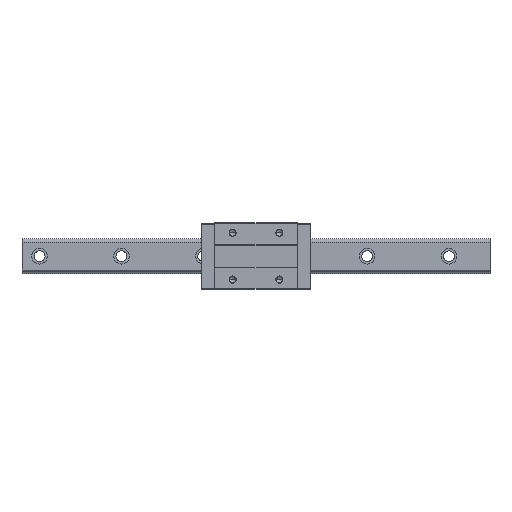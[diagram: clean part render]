
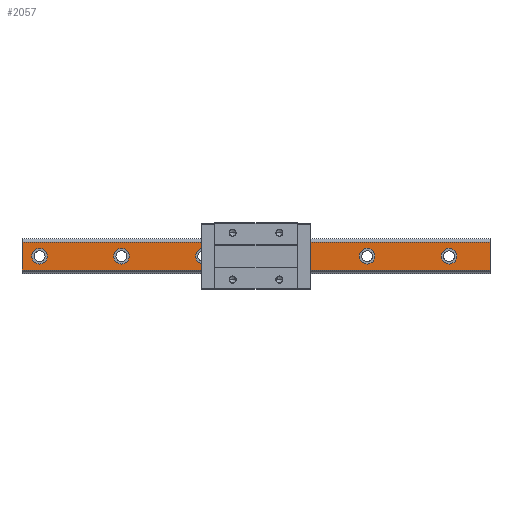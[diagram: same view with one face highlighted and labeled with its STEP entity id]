
A CAD part, top view. The second image highlights one B-rep face of the part: STEP entity #2057.
In plain terms, the highlighted planar face has unit normal (0, 0, 1).
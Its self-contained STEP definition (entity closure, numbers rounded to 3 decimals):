
#25 = ORIENTED_EDGE ( 'NONE', *, *, #1064, .F. ) ;
#48 = DIRECTION ( 'NONE',  ( 1., 0., 0. ) ) ;
#52 = DIRECTION ( 'NONE',  ( 0., 0., 1. ) ) ;
#90 = EDGE_CURVE ( 'NONE', #3299, #2442, #5118, .T. ) ;
#153 = EDGE_CURVE ( 'NONE', #2442, #2676, #3774, .T. ) ;
#180 = DIRECTION ( 'NONE',  ( 1., 0., 0. ) ) ;
#242 = AXIS2_PLACEMENT_3D ( 'NONE', #5193, #4300, #5134 ) ;
#294 = CARTESIAN_POINT ( 'NONE',  ( 247.5, 0., 32. ) ) ;
#303 = CIRCLE ( 'NONE', #4556, 10. ) ;
#329 = DIRECTION ( 'NONE',  ( 0., 0., 1. ) ) ;
#374 = FACE_BOUND ( 'NONE', #3960, .T. ) ;
#390 = AXIS2_PLACEMENT_3D ( 'NONE', #4216, #774, #800 ) ;
#400 = EDGE_CURVE ( 'NONE', #4006, #4148, #3013, .T. ) ;
#443 = EDGE_LOOP ( 'NONE', ( #5493, #1822 ) ) ;
#477 = CIRCLE ( 'NONE', #832, 10. ) ;
#497 = VERTEX_POINT ( 'NONE', #3310 ) ;
#568 = DIRECTION ( 'NONE',  ( 1., 0., 0. ) ) ;
#585 = LINE ( 'NONE', #1404, #4027 ) ;
#612 = DIRECTION ( 'NONE',  ( -1., 0., 0. ) ) ;
#620 = CARTESIAN_POINT ( 'NONE',  ( -277.5, 0., 32. ) ) ;
#635 = CARTESIAN_POINT ( 'NONE',  ( -57.5, 0., 32. ) ) ;
#664 = FACE_BOUND ( 'NONE', #868, .T. ) ;
#705 = ORIENTED_EDGE ( 'NONE', *, *, #5480, .F. ) ;
#716 = EDGE_CURVE ( 'NONE', #3423, #2676, #585, .T. ) ;
#720 = AXIS2_PLACEMENT_3D ( 'NONE', #2913, #3312, #5426 ) ;
#749 = EDGE_CURVE ( 'NONE', #1912, #958, #303, .T. ) ;
#774 = DIRECTION ( 'NONE',  ( 0., 0., 1. ) ) ;
#780 = DIRECTION ( 'NONE',  ( 1., 0., 0. ) ) ;
#795 = DIRECTION ( 'NONE',  ( 1., 0., 0. ) ) ;
#800 = DIRECTION ( 'NONE',  ( 1., 0., 0. ) ) ;
#812 = CARTESIAN_POINT ( 'NONE',  ( 300., 17.696, 32. ) ) ;
#827 = CARTESIAN_POINT ( 'NONE',  ( -267.5, 0., 32. ) ) ;
#832 = AXIS2_PLACEMENT_3D ( 'NONE', #5347, #2866, #1022 ) ;
#868 = EDGE_LOOP ( 'NONE', ( #1169, #5378 ) ) ;
#895 = ORIENTED_EDGE ( 'NONE', *, *, #1331, .F. ) ;
#938 = CIRCLE ( 'NONE', #4562, 10. ) ;
#941 = VERTEX_POINT ( 'NONE', #827 ) ;
#958 = VERTEX_POINT ( 'NONE', #5525 ) ;
#984 = DIRECTION ( 'NONE',  ( 1., 0., 0. ) ) ;
#1005 = EDGE_CURVE ( 'NONE', #2093, #2101, #5265, .T. ) ;
#1022 = DIRECTION ( 'NONE',  ( 1., 0., 0. ) ) ;
#1064 = EDGE_CURVE ( 'NONE', #4148, #4006, #938, .T. ) ;
#1102 = ORIENTED_EDGE ( 'NONE', *, *, #3631, .F. ) ;
#1144 = CARTESIAN_POINT ( 'NONE',  ( -277.5, 0., 32. ) ) ;
#1169 = ORIENTED_EDGE ( 'NONE', *, *, #3233, .F. ) ;
#1190 = DIRECTION ( 'NONE',  ( 0., 0., 1. ) ) ;
#1221 = LINE ( 'NONE', #3858, #1762 ) ;
#1286 = EDGE_CURVE ( 'NONE', #497, #4071, #4646, .T. ) ;
#1305 = AXIS2_PLACEMENT_3D ( 'NONE', #5045, #1190, #795 ) ;
#1331 = EDGE_CURVE ( 'NONE', #4075, #2822, #2313, .T. ) ;
#1377 = AXIS2_PLACEMENT_3D ( 'NONE', #1144, #4572, #2418 ) ;
#1404 = CARTESIAN_POINT ( 'NONE',  ( 300., -17.696, 32. ) ) ;
#1436 = CARTESIAN_POINT ( 'NONE',  ( -300., -17.696, 32. ) ) ;
#1451 = CIRCLE ( 'NONE', #720, 10. ) ;
#1543 = CARTESIAN_POINT ( 'NONE',  ( 300., -17.696, 32. ) ) ;
#1688 = CARTESIAN_POINT ( 'NONE',  ( 237.5, 0., 32. ) ) ;
#1762 = VECTOR ( 'NONE', #3372, 1000. ) ;
#1772 = EDGE_LOOP ( 'NONE', ( #5434, #25 ) ) ;
#1778 = CARTESIAN_POINT ( 'NONE',  ( -300., 17.696, 32. ) ) ;
#1822 = ORIENTED_EDGE ( 'NONE', *, *, #1286, .F. ) ;
#1827 = CARTESIAN_POINT ( 'NONE',  ( -67.5, 0., 32. ) ) ;
#1838 = AXIS2_PLACEMENT_3D ( 'NONE', #4892, #329, #780 ) ;
#1885 = DIRECTION ( 'NONE',  ( 0., 0., 1. ) ) ;
#1898 = EDGE_LOOP ( 'NONE', ( #895, #4068 ) ) ;
#1912 = VERTEX_POINT ( 'NONE', #635 ) ;
#1979 = CARTESIAN_POINT ( 'NONE',  ( 300., 17.696, 32. ) ) ;
#2013 = CARTESIAN_POINT ( 'NONE',  ( -182.5, 0., 32. ) ) ;
#2024 = DIRECTION ( 'NONE',  ( 0., 0., 1. ) ) ;
#2032 = CIRCLE ( 'NONE', #3029, 10. ) ;
#2057 = ADVANCED_FACE ( 'NONE', ( #3438, #664, #4291, #4730, #3684, #374, #2983 ), #5580, .F. ) ;
#2093 = VERTEX_POINT ( 'NONE', #5419 ) ;
#2101 = VERTEX_POINT ( 'NONE', #4967 ) ;
#2102 = DIRECTION ( 'NONE',  ( 0., 0., -1. ) ) ;
#2107 = CARTESIAN_POINT ( 'NONE',  ( 47.5, 0., 32. ) ) ;
#2253 = ORIENTED_EDGE ( 'NONE', *, *, #749, .F. ) ;
#2301 = CARTESIAN_POINT ( 'NONE',  ( 257.5, 0., 32. ) ) ;
#2313 = CIRCLE ( 'NONE', #1305, 10. ) ;
#2383 = CIRCLE ( 'NONE', #1377, 10. ) ;
#2418 = DIRECTION ( 'NONE',  ( 1., 0., 0. ) ) ;
#2442 = VERTEX_POINT ( 'NONE', #1778 ) ;
#2470 = VECTOR ( 'NONE', #4225, 1000. ) ;
#2595 = EDGE_LOOP ( 'NONE', ( #5159, #3873, #1102, #3644 ) ) ;
#2667 = AXIS2_PLACEMENT_3D ( 'NONE', #5389, #1885, #180 ) ;
#2676 = VERTEX_POINT ( 'NONE', #1436 ) ;
#2687 = DIRECTION ( 'NONE',  ( 1., 0., 0. ) ) ;
#2700 = CIRCLE ( 'NONE', #242, 10. ) ;
#2799 = EDGE_CURVE ( 'NONE', #941, #3411, #2383, .T. ) ;
#2822 = VERTEX_POINT ( 'NONE', #2013 ) ;
#2866 = DIRECTION ( 'NONE',  ( 0., 0., 1. ) ) ;
#2913 = CARTESIAN_POINT ( 'NONE',  ( -67.5, 0., 32. ) ) ;
#2983 = FACE_OUTER_BOUND ( 'NONE', #2595, .T. ) ;
#3013 = CIRCLE ( 'NONE', #1838, 10. ) ;
#3017 = AXIS2_PLACEMENT_3D ( 'NONE', #1543, #2102, #5024 ) ;
#3029 = AXIS2_PLACEMENT_3D ( 'NONE', #620, #3947, #48 ) ;
#3076 = EDGE_CURVE ( 'NONE', #2822, #4075, #5359, .T. ) ;
#3111 = CARTESIAN_POINT ( 'NONE',  ( 300., -17.696, 32. ) ) ;
#3233 = EDGE_CURVE ( 'NONE', #2101, #2093, #477, .T. ) ;
#3299 = VERTEX_POINT ( 'NONE', #812 ) ;
#3310 = CARTESIAN_POINT ( 'NONE',  ( 27.5, 0., 32. ) ) ;
#3312 = DIRECTION ( 'NONE',  ( 0., 0., 1. ) ) ;
#3367 = DIRECTION ( 'NONE',  ( -1., 0., 0. ) ) ;
#3372 = DIRECTION ( 'NONE',  ( 0., -1., 0. ) ) ;
#3411 = VERTEX_POINT ( 'NONE', #5056 ) ;
#3423 = VERTEX_POINT ( 'NONE', #3111 ) ;
#3438 = FACE_BOUND ( 'NONE', #1772, .T. ) ;
#3631 = EDGE_CURVE ( 'NONE', #3299, #3423, #1221, .T. ) ;
#3644 = ORIENTED_EDGE ( 'NONE', *, *, #90, .T. ) ;
#3654 = VECTOR ( 'NONE', #3367, 1000. ) ;
#3684 = FACE_BOUND ( 'NONE', #1898, .T. ) ;
#3774 = LINE ( 'NONE', #5490, #2470 ) ;
#3858 = CARTESIAN_POINT ( 'NONE',  ( 300., -17.696, 32. ) ) ;
#3873 = ORIENTED_EDGE ( 'NONE', *, *, #716, .F. ) ;
#3947 = DIRECTION ( 'NONE',  ( 0., 0., 1. ) ) ;
#3960 = EDGE_LOOP ( 'NONE', ( #4221, #4950 ) ) ;
#4006 = VERTEX_POINT ( 'NONE', #2301 ) ;
#4007 = CARTESIAN_POINT ( 'NONE',  ( -172.5, 0., 32. ) ) ;
#4025 = EDGE_CURVE ( 'NONE', #4071, #497, #2700, .T. ) ;
#4027 = VECTOR ( 'NONE', #612, 1000. ) ;
#4068 = ORIENTED_EDGE ( 'NONE', *, *, #3076, .F. ) ;
#4071 = VERTEX_POINT ( 'NONE', #2107 ) ;
#4075 = VERTEX_POINT ( 'NONE', #4768 ) ;
#4147 = EDGE_LOOP ( 'NONE', ( #2253, #705 ) ) ;
#4148 = VERTEX_POINT ( 'NONE', #1688 ) ;
#4216 = CARTESIAN_POINT ( 'NONE',  ( 142.5, 0., 32. ) ) ;
#4221 = ORIENTED_EDGE ( 'NONE', *, *, #2799, .F. ) ;
#4225 = DIRECTION ( 'NONE',  ( 0., -1., 0. ) ) ;
#4291 = FACE_BOUND ( 'NONE', #443, .T. ) ;
#4300 = DIRECTION ( 'NONE',  ( 0., 0., 1. ) ) ;
#4556 = AXIS2_PLACEMENT_3D ( 'NONE', #1827, #4855, #984 ) ;
#4562 = AXIS2_PLACEMENT_3D ( 'NONE', #294, #2024, #2687 ) ;
#4572 = DIRECTION ( 'NONE',  ( 0., 0., 1. ) ) ;
#4639 = AXIS2_PLACEMENT_3D ( 'NONE', #4007, #52, #568 ) ;
#4646 = CIRCLE ( 'NONE', #2667, 10. ) ;
#4730 = FACE_BOUND ( 'NONE', #4147, .T. ) ;
#4768 = CARTESIAN_POINT ( 'NONE',  ( -162.5, 0., 32. ) ) ;
#4855 = DIRECTION ( 'NONE',  ( 0., 0., 1. ) ) ;
#4892 = CARTESIAN_POINT ( 'NONE',  ( 247.5, 0., 32. ) ) ;
#4950 = ORIENTED_EDGE ( 'NONE', *, *, #5348, .F. ) ;
#4967 = CARTESIAN_POINT ( 'NONE',  ( 152.5, 0., 32. ) ) ;
#5024 = DIRECTION ( 'NONE',  ( -1., 0., 0. ) ) ;
#5045 = CARTESIAN_POINT ( 'NONE',  ( -172.5, 0., 32. ) ) ;
#5056 = CARTESIAN_POINT ( 'NONE',  ( -287.5, 0., 32. ) ) ;
#5118 = LINE ( 'NONE', #1979, #3654 ) ;
#5134 = DIRECTION ( 'NONE',  ( 1., 0., 0. ) ) ;
#5159 = ORIENTED_EDGE ( 'NONE', *, *, #153, .T. ) ;
#5193 = CARTESIAN_POINT ( 'NONE',  ( 37.5, 0., 32. ) ) ;
#5265 = CIRCLE ( 'NONE', #390, 10. ) ;
#5347 = CARTESIAN_POINT ( 'NONE',  ( 142.5, 0., 32. ) ) ;
#5348 = EDGE_CURVE ( 'NONE', #3411, #941, #2032, .T. ) ;
#5359 = CIRCLE ( 'NONE', #4639, 10. ) ;
#5378 = ORIENTED_EDGE ( 'NONE', *, *, #1005, .F. ) ;
#5389 = CARTESIAN_POINT ( 'NONE',  ( 37.5, 0., 32. ) ) ;
#5419 = CARTESIAN_POINT ( 'NONE',  ( 132.5, 0., 32. ) ) ;
#5426 = DIRECTION ( 'NONE',  ( 1., 0., 0. ) ) ;
#5434 = ORIENTED_EDGE ( 'NONE', *, *, #400, .F. ) ;
#5480 = EDGE_CURVE ( 'NONE', #958, #1912, #1451, .T. ) ;
#5490 = CARTESIAN_POINT ( 'NONE',  ( -300., -17.696, 32. ) ) ;
#5493 = ORIENTED_EDGE ( 'NONE', *, *, #4025, .F. ) ;
#5525 = CARTESIAN_POINT ( 'NONE',  ( -77.5, 0., 32. ) ) ;
#5580 = PLANE ( 'NONE',  #3017 ) ;
